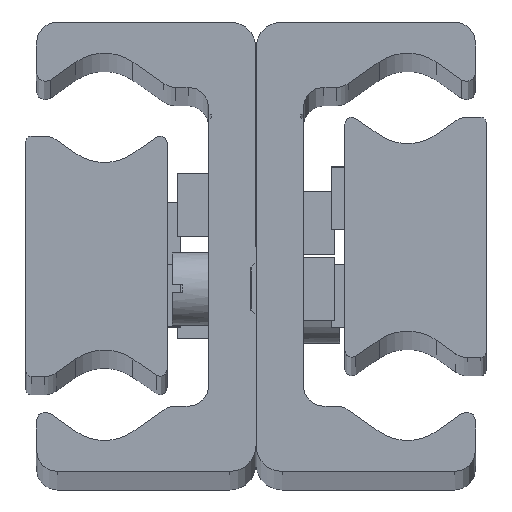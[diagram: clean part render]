
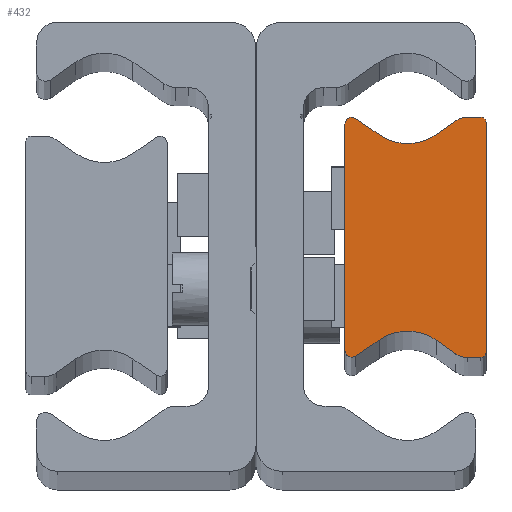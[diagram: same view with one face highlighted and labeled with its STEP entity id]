
A CAD part, top view. The second image highlights one B-rep face of the part: STEP entity #432.
In plain terms, the highlighted planar face has unit normal (0, 0, 1) as drawn and (0, 0, -1) by its records, which use the part's own axes.
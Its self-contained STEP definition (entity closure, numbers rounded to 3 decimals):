
#432 = ADVANCED_FACE( '', ( #991 ), #992, .F. );
#991 = FACE_OUTER_BOUND( '', #1693, .T. );
#992 = PLANE( '', #1694 );
#1693 = EDGE_LOOP( '', ( #2662, #2663, #2664, #2665, #2666, #2667, #2668, #2669, #2670, #2671, #2672, #2673, #2674, #2675, #2676, #2677 ) );
#1694 = AXIS2_PLACEMENT_3D( '', #2678, #2679, #2680 );
#2662 = ORIENTED_EDGE( '', *, *, #3699, .F. );
#2663 = ORIENTED_EDGE( '', *, *, #3611, .F. );
#2664 = ORIENTED_EDGE( '', *, *, #3840, .F. );
#2665 = ORIENTED_EDGE( '', *, *, #3768, .F. );
#2666 = ORIENTED_EDGE( '', *, *, #3759, .F. );
#2667 = ORIENTED_EDGE( '', *, *, #3841, .T. );
#2668 = ORIENTED_EDGE( '', *, *, #3842, .F. );
#2669 = ORIENTED_EDGE( '', *, *, #3843, .F. );
#2670 = ORIENTED_EDGE( '', *, *, #3742, .F. );
#2671 = ORIENTED_EDGE( '', *, *, #3844, .F. );
#2672 = ORIENTED_EDGE( '', *, *, #3845, .F. );
#2673 = ORIENTED_EDGE( '', *, *, #3846, .T. );
#2674 = ORIENTED_EDGE( '', *, *, #3704, .F. );
#2675 = ORIENTED_EDGE( '', *, *, #3755, .F. );
#2676 = ORIENTED_EDGE( '', *, *, #3566, .F. );
#2677 = ORIENTED_EDGE( '', *, *, #3713, .F. );
#2678 = CARTESIAN_POINT( '', ( 0.5, -11., -1010. ) );
#2679 = DIRECTION( '', ( 0., 0., 1. ) );
#2680 = DIRECTION( '', ( 1., 0., 0. ) );
#3566 = EDGE_CURVE( '', #4134, #4136, #4137, .T. );
#3611 = EDGE_CURVE( '', #4213, #4215, #4216, .T. );
#3699 = EDGE_CURVE( '', #4215, #4368, #4369, .T. );
#3704 = EDGE_CURVE( '', #4375, #4377, #4378, .T. );
#3713 = EDGE_CURVE( '', #4368, #4134, #4391, .T. );
#3742 = EDGE_CURVE( '', #4440, #4442, #4443, .T. );
#3755 = EDGE_CURVE( '', #4136, #4375, #4459, .T. );
#3759 = EDGE_CURVE( '', #4464, #4466, #4467, .T. );
#3768 = EDGE_CURVE( '', #4466, #4481, #4482, .T. );
#3840 = EDGE_CURVE( '', #4481, #4213, #4592, .T. );
#3841 = EDGE_CURVE( '', #4464, #4593, #4594, .T. );
#3842 = EDGE_CURVE( '', #4595, #4593, #4596, .T. );
#3843 = EDGE_CURVE( '', #4442, #4595, #4597, .T. );
#3844 = EDGE_CURVE( '', #4598, #4440, #4599, .T. );
#3845 = EDGE_CURVE( '', #4600, #4598, #4601, .T. );
#3846 = EDGE_CURVE( '', #4600, #4377, #4602, .T. );
#4134 = VERTEX_POINT( '', #4973 );
#4136 = VERTEX_POINT( '', #4976 );
#4137 = LINE( '', #4977, #4978 );
#4213 = VERTEX_POINT( '', #5074 );
#4215 = VERTEX_POINT( '', #5077 );
#4216 = CIRCLE( '', #5078, 0.5 );
#4368 = VERTEX_POINT( '', #5261 );
#4369 = LINE( '', #5262, #5263 );
#4375 = VERTEX_POINT( '', #5271 );
#4377 = VERTEX_POINT( '', #5274 );
#4378 = LINE( '', #5275, #5276 );
#4391 = CIRCLE( '', #5294, 0.5 );
#4440 = VERTEX_POINT( '', #5351 );
#4442 = VERTEX_POINT( '', #5354 );
#4443 = LINE( '', #5355, #5356 );
#4459 = CIRCLE( '', #5378, 2. );
#4464 = VERTEX_POINT( '', #5384 );
#4466 = VERTEX_POINT( '', #5387 );
#4467 = LINE( '', #5388, #5389 );
#4481 = VERTEX_POINT( '', #5406 );
#4482 = CIRCLE( '', #5407, 2. );
#4592 = LINE( '', #5545, #5546 );
#4593 = VERTEX_POINT( '', #5547 );
#4594 = CIRCLE( '', #5548, 4.763 );
#4595 = VERTEX_POINT( '', #5549 );
#4596 = LINE( '', #5550, #5551 );
#4597 = CIRCLE( '', #5552, 0.668 );
#4598 = VERTEX_POINT( '', #5553 );
#4599 = CIRCLE( '', #5554, 0.668 );
#4600 = VERTEX_POINT( '', #5555 );
#4601 = LINE( '', #5556, #5557 );
#4602 = CIRCLE( '', #5558, 4.763 );
#4973 = CARTESIAN_POINT( '', ( 0.5, -11.5, -1010. ) );
#4976 = CARTESIAN_POINT( '', ( 1.748, -11.5, -1010. ) );
#4977 = CARTESIAN_POINT( '', ( 0.5, -11.5, -1010. ) );
#4978 = VECTOR( '', #5983, 1000. );
#5074 = CARTESIAN_POINT( '', ( 0.5, 11.5, -1010. ) );
#5077 = CARTESIAN_POINT( '', ( 0., 11., -1010. ) );
#5078 = AXIS2_PLACEMENT_3D( '', #6044, #6045, #6046 );
#5261 = CARTESIAN_POINT( '', ( 0., -11., -1010. ) );
#5262 = CARTESIAN_POINT( '', ( 0., 11., -1010. ) );
#5263 = VECTOR( '', #6183, 1000. );
#5271 = CARTESIAN_POINT( '', ( 2.895, -11.138, -1010. ) );
#5274 = CARTESIAN_POINT( '', ( 4.768, -9.827, -1010. ) );
#5275 = CARTESIAN_POINT( '', ( 2.895, -11.138, -1010. ) );
#5276 = VECTOR( '', #6187, 1000. );
#5294 = AXIS2_PLACEMENT_3D( '', #6196, #6197, #6198 );
#5351 = CARTESIAN_POINT( '', ( 13.5, -10.832, -1010. ) );
#5354 = CARTESIAN_POINT( '', ( 13.5, 10.832, -1010. ) );
#5355 = CARTESIAN_POINT( '', ( 13.5, -10.832, -1010. ) );
#5356 = VECTOR( '', #6247, 1000. );
#5378 = AXIS2_PLACEMENT_3D( '', #6260, #6261, #6262 );
#5384 = CARTESIAN_POINT( '', ( 4.768, 9.827, -1010. ) );
#5387 = CARTESIAN_POINT( '', ( 2.895, 11.138, -1010. ) );
#5388 = CARTESIAN_POINT( '', ( 4.768, 9.827, -1010. ) );
#5389 = VECTOR( '', #6265, 1000. );
#5406 = CARTESIAN_POINT( '', ( 1.748, 11.5, -1010. ) );
#5407 = AXIS2_PLACEMENT_3D( '', #6278, #6279, #6280 );
#5545 = CARTESIAN_POINT( '', ( 1.748, 11.5, -1010. ) );
#5546 = VECTOR( '', #6366, 1000. );
#5547 = CARTESIAN_POINT( '', ( 10.232, 9.827, -1010. ) );
#5548 = AXIS2_PLACEMENT_3D( '', #6367, #6368, #6369 );
#5549 = CARTESIAN_POINT( '', ( 12.449, 11.379, -1010. ) );
#5550 = CARTESIAN_POINT( '', ( 12.449, 11.379, -1010. ) );
#5551 = VECTOR( '', #6370, 1000. );
#5552 = AXIS2_PLACEMENT_3D( '', #6371, #6372, #6373 );
#5553 = CARTESIAN_POINT( '', ( 12.449, -11.379, -1010. ) );
#5554 = AXIS2_PLACEMENT_3D( '', #6374, #6375, #6376 );
#5555 = CARTESIAN_POINT( '', ( 10.232, -9.827, -1010. ) );
#5556 = CARTESIAN_POINT( '', ( 10.232, -9.827, -1010. ) );
#5557 = VECTOR( '', #6377, 1000. );
#5558 = AXIS2_PLACEMENT_3D( '', #6378, #6379, #6380 );
#5983 = DIRECTION( '', ( 1., 0., 0. ) );
#6044 = CARTESIAN_POINT( '', ( 0.5, 11., -1010. ) );
#6045 = DIRECTION( '', ( 0., 0., 1. ) );
#6046 = DIRECTION( '', ( 1., 0., 0. ) );
#6183 = DIRECTION( '', ( 0., -1., 0. ) );
#6187 = DIRECTION( '', ( 0.819, 0.574, 0. ) );
#6196 = CARTESIAN_POINT( '', ( 0.5, -11., -1010. ) );
#6197 = DIRECTION( '', ( 0., 0., 1. ) );
#6198 = DIRECTION( '', ( 1., 0., 0. ) );
#6247 = DIRECTION( '', ( 0., 1., 0. ) );
#6260 = CARTESIAN_POINT( '', ( 1.748, -9.5, -1010. ) );
#6261 = DIRECTION( '', ( 0., 0., 1. ) );
#6262 = DIRECTION( '', ( 1., 0., 0. ) );
#6265 = DIRECTION( '', ( -0.819, 0.574, 0. ) );
#6278 = CARTESIAN_POINT( '', ( 1.748, 9.5, -1010. ) );
#6279 = DIRECTION( '', ( 0., 0., 1. ) );
#6280 = DIRECTION( '', ( 1., 0., 0. ) );
#6366 = DIRECTION( '', ( -1., 0., 0. ) );
#6367 = CARTESIAN_POINT( '', ( 7.5, 13.729, -1010. ) );
#6368 = DIRECTION( '', ( 0., 0., 1. ) );
#6369 = DIRECTION( '', ( 1., 0., 0. ) );
#6370 = DIRECTION( '', ( -0.819, -0.574, 0. ) );
#6371 = CARTESIAN_POINT( '', ( 12.832, 10.832, -1010. ) );
#6372 = DIRECTION( '', ( 0., 0., 1. ) );
#6373 = DIRECTION( '', ( 1., 0., 0. ) );
#6374 = CARTESIAN_POINT( '', ( 12.832, -10.832, -1010. ) );
#6375 = DIRECTION( '', ( 0., 0., 1. ) );
#6376 = DIRECTION( '', ( 1., 0., 0. ) );
#6377 = DIRECTION( '', ( 0.819, -0.574, 0. ) );
#6378 = CARTESIAN_POINT( '', ( 7.5, -13.729, -1010. ) );
#6379 = DIRECTION( '', ( 0., 0., 1. ) );
#6380 = DIRECTION( '', ( 1., 0., 0. ) );
